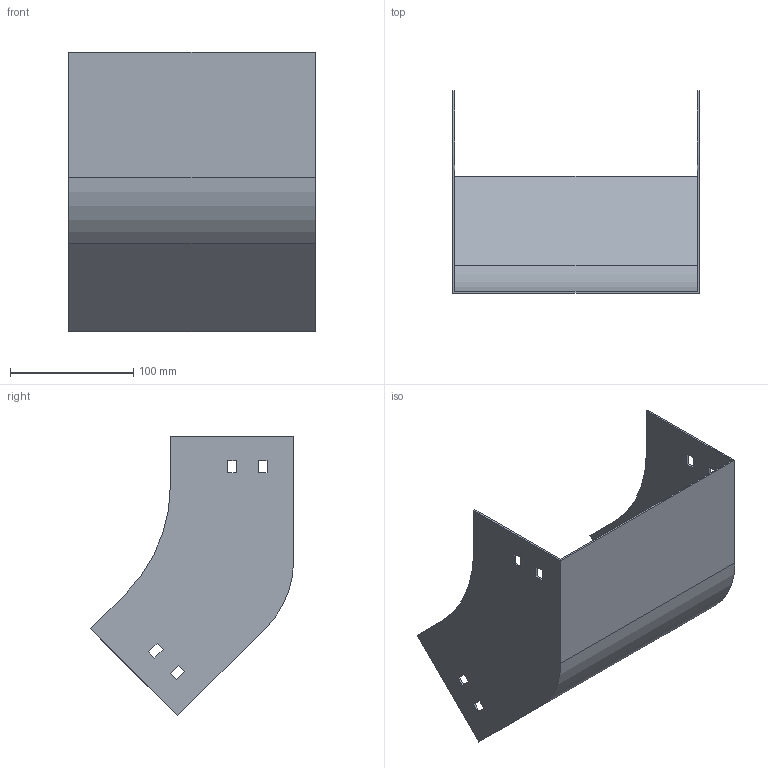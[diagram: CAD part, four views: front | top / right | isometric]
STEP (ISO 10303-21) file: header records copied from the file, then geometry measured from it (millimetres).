
FILE_DESCRIPTION (( 'STEP AP214' ), '1' );
FILE_NAME ('S4_201.step', '2025-07-16T09:26:32', ( '' ), ( '' ), 'SwSTEP 2.0', 'SolidWorks 2023', '' );
FILE_SCHEMA (( 'AUTOMOTIVE_DESIGN' ));
Length unit declared in the file: millimetre
Products named in the file (1): S4_201
Bounding box: 200 x 164.9 x 227.38 mm (x, y, z)
Volume: 144890.2 mm3; surface area: 195322.2 mm2
Topology: 1 solids, 1 shells, 50 faces, 144 edges, 96 vertices
Faces by surface type: plane 46, cylinder 4
Entity records: 1671 total; most frequent: CARTESIAN_POINT 291, ORIENTED_EDGE 288, DIRECTION 254, EDGE_CURVE 144, VECTOR 136, LINE 136, VERTEX_POINT 96, EDGE_LOOP 66
